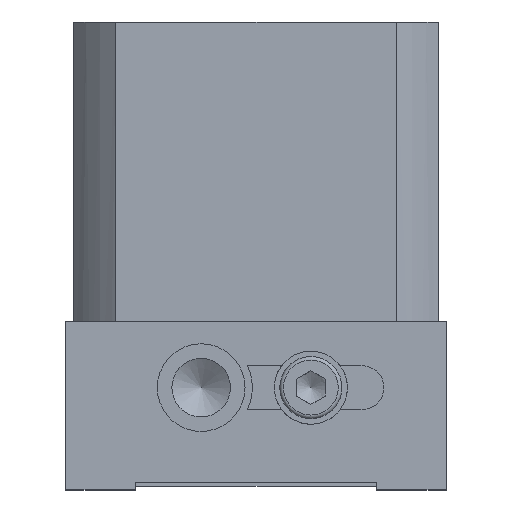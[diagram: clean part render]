
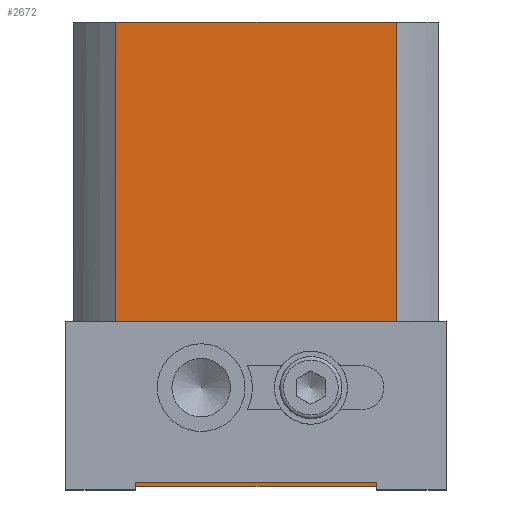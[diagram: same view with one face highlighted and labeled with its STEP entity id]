
A CAD part, left-side view. The second image highlights one B-rep face of the part: STEP entity #2672.
In plain terms, the highlighted planar face has unit normal (-1, 0, 0).
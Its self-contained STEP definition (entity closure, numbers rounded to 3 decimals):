
#2604=CARTESIAN_POINT('',(-25.,32.5,-44.0));
#2605=VERTEX_POINT('',#2604);
#2606=CARTESIAN_POINT('',(-25.,32.5,-50.));
#2607=DIRECTION('',(-1.0,0.0,0.0));
#2608=DIRECTION('',(0.0,1.0,0.0));
#2609=AXIS2_PLACEMENT_3D('',#2606,#2607,#2608);
#2610=CIRCLE('',#2609,6.);
#2611=EDGE_CURVE('',#2605,#2605,#2610,.T.);
#2619=CARTESIAN_POINT('',(-25.,44.164,0.0));
#2620=DIRECTION('',(-1.0,0.0,0.0));
#2621=DIRECTION('',(0.0,0.0,1.0));
#2622=AXIS2_PLACEMENT_3D('',#2619,#2620,#2621);
#2623=PLANE('',#2622);
#2624=CARTESIAN_POINT('',(-25.,5.836,0.0));
#2625=VERTEX_POINT('',#2624);
#2626=CARTESIAN_POINT('',(-25.,5.836,-63.5));
#2627=VERTEX_POINT('',#2626);
#2628=CARTESIAN_POINT('',(-25.,5.836,0.0));
#2629=DIRECTION('',(0.0,0.0,-1.0));
#2630=VECTOR('',#2629,63.5);
#2631=LINE('',#2628,#2630);
#2632=EDGE_CURVE('',#2625,#2627,#2631,.T.);
#2633=ORIENTED_EDGE('',*,*,#2632,.F.);
#2634=CARTESIAN_POINT('',(-25.,44.164,0.0));
#2635=VERTEX_POINT('',#2634);
#2636=CARTESIAN_POINT('',(-25.,44.164,0.0));
#2637=DIRECTION('',(0.0,-1.0,0.0));
#2638=VECTOR('',#2637,38.328);
#2639=LINE('',#2636,#2638);
#2640=EDGE_CURVE('',#2635,#2625,#2639,.T.);
#2641=ORIENTED_EDGE('',*,*,#2640,.F.);
#2642=CARTESIAN_POINT('',(-25.,44.164,-63.5));
#2643=VERTEX_POINT('',#2642);
#2644=CARTESIAN_POINT('',(-25.,44.164,0.0));
#2645=DIRECTION('',(0.0,0.0,-1.0));
#2646=VECTOR('',#2645,63.5);
#2647=LINE('',#2644,#2646);
#2648=EDGE_CURVE('',#2635,#2643,#2647,.T.);
#2649=ORIENTED_EDGE('',*,*,#2648,.T.);
#2650=CARTESIAN_POINT('',(-25.,44.164,-63.5));
#2651=DIRECTION('',(0.0,-1.0,0.0));
#2652=VECTOR('',#2651,38.328);
#2653=LINE('',#2650,#2652);
#2654=EDGE_CURVE('',#2643,#2627,#2653,.T.);
#2655=ORIENTED_EDGE('',*,*,#2654,.T.);
#2656=EDGE_LOOP('',(#2633,#2641,#2649,#2655));
#2657=FACE_OUTER_BOUND('',#2656,.T.);
#2658=ORIENTED_EDGE('',*,*,#2611,.F.);
#2659=EDGE_LOOP('',(#2658));
#2660=FACE_BOUND('',#2659,.T.);
#2661=CARTESIAN_POINT('',(-25.,17.5,-44.0));
#2662=VERTEX_POINT('',#2661);
#2663=CARTESIAN_POINT('',(-25.0,17.5,-50.));
#2664=DIRECTION('',(-1.0,0.0,0.0));
#2665=DIRECTION('',(0.0,-1.0,0.0));
#2666=AXIS2_PLACEMENT_3D('',#2663,#2664,#2665);
#2667=CIRCLE('',#2666,6.);
#2668=EDGE_CURVE('',#2662,#2662,#2667,.T.);
#2669=ORIENTED_EDGE('',*,*,#2668,.F.);
#2670=EDGE_LOOP('',(#2669));
#2671=FACE_BOUND('',#2670,.T.);
#2672=ADVANCED_FACE('',(#2657,#2660,#2671),#2623,.T.);
